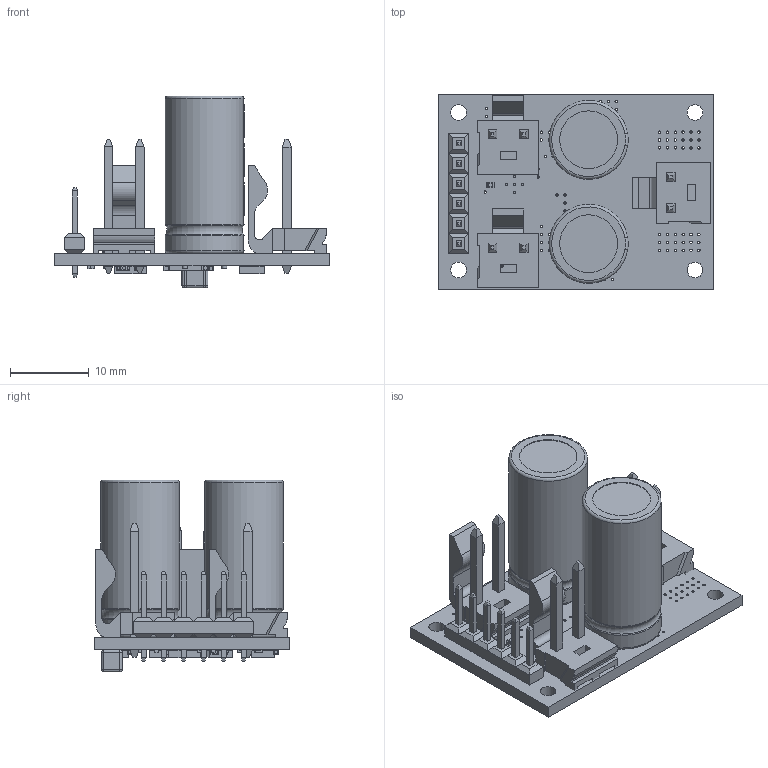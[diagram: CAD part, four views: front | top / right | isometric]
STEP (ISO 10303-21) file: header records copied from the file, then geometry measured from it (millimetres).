
FILE_DESCRIPTION(/* description */ (''),/* implementation_level */ '2;1');
FILE_NAME(/* name */ 'C:/Users/priba/Documents/Temp/Export/mrm-mot1x50.step',/* time_stamp */ '2019-09-09T12:47:38+02:00',/* author */ (''),/* organization */ (''),/* preprocessor_version */ 'ST-DEVELOPER v18',/* originating_system */ 'Autodesk Translation Framework v8.6.0.1094',/* authorisation */ '');
FILE_SCHEMA (('AUTOMOTIVE_DESIGN { 1 0 10303 214 3 1 1 }'));
Length unit declared in the file: millimetre
Products named in the file (20): mrm-mot1x50; PCB Component; Board; AON7418; TI_DRV8701ERGER; Body; ThermalPin; PinsArrayLR; PinsArrayTB; MOLEX_1718130002; 5 mOhm; 100 nF; 470 uF; 1X06_NO_SILK; 3.3 kOhm; 10 uF; Fillet1; Fillet2; body2; FIDUCIAL1X2
Assembly tree (41 placements, depth 4):
  mrm-mot1x50
    PCB Component
      Board
      AON7418  x4
      TI_DRV8701ERGER
        Body
        ThermalPin
        PinsArrayLR
        PinsArrayTB
      MOLEX_1718130002  x3
      5 mOhm
      100 nF  x7
      470 uF  x2
      1X06_NO_SILK
      3.3 kOhm  x6
      10 uF
        Fillet1
        Fillet2
        body2
      FIDUCIAL1X2  x6
Bounding box: 34.8 x 24.8 x 24.37 mm (x, y, z)
Volume: 5357.8 mm3; surface area: 5746.5 mm2
Topology: 54 solids, 54 shells, 1807 faces, 4895 edges, 3190 vertices
Faces by surface type: plane 1041, cylinder 570, sphere 176, torus 20
Full cylindrical faces by diameter (mm): 0.3 x102, 0.5 x1, 0.6 x4, 0.7 x4, 1.016 x6, 1.73 x6, 2 x4, 7.333 x2
Entity records: 26398 total; most frequent: CARTESIAN_POINT 4734, DIRECTION 4236, ORIENTED_EDGE 4058, EDGE_CURVE 2029, AXIS2_PLACEMENT_3D 1457, LINE 1322, VECTOR 1322, VERTEX_POINT 1311
